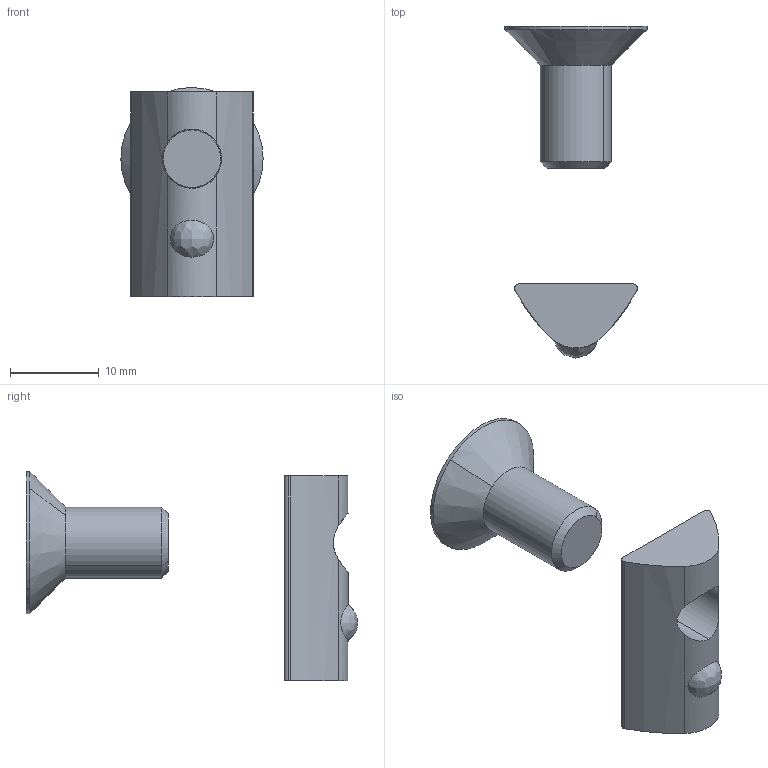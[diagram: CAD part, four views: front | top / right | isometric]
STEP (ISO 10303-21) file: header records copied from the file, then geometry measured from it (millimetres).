
FILE_DESCRIPTION (( 'STEP AP203' ), '1' );
FILE_NAME ('30008_BEFSTZWINLAS.STEP', '2018-05-17T07:43:13', ( '' ), ( '' ), 'SwSTEP 2.0', 'SolidWorks 2017', '' );
FILE_SCHEMA (( 'CONFIG_CONTROL_DESIGN' ));
Length unit declared in the file: millimetre
Products named in the file (3): 30008_BEFSTZWINLAS; 10358-01-0000-00_nutenstein m8; 10543-01-0000-00_SKS M8x16
Assembly tree (2 placements, depth 2):
  30008_BEFSTZWINLAS
    10543-01-0000-00_SKS M8x16
    10358-01-0000-00_nutenstein m8
Bounding box: 16 x 37.3 x 23.5 mm (x, y, z)
Volume: 2379.8 mm3; surface area: 1827 mm2
Topology: 2 solids, 2 shells, 31 faces, 79 edges, 51 vertices
Faces by surface type: cylinder 13, plane 11, cone 6, bspline 1
Entity records: 1389 total; most frequent: CARTESIAN_POINT 345, DIRECTION 161, ORIENTED_EDGE 154, EDGE_CURVE 77, AXIS2_PLACEMENT_3D 63, VERTEX_POINT 51, LINE 35, VECTOR 35
